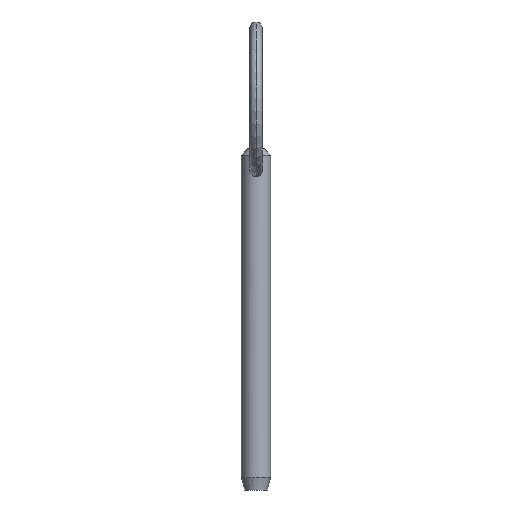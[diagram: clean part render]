
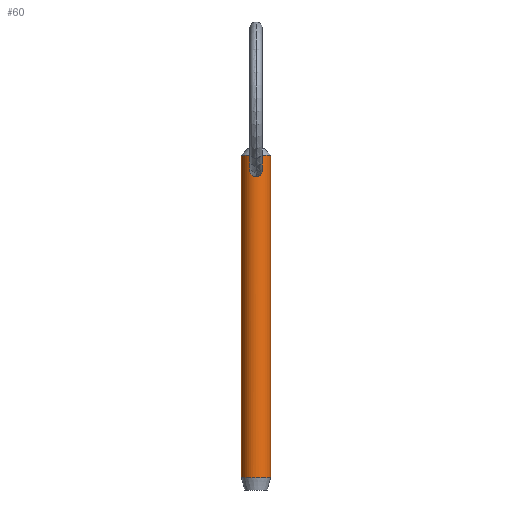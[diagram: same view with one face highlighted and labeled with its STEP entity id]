
A CAD part, front view. The second image highlights one B-rep face of the part: STEP entity #60.
In plain terms, the highlighted cylindrical face has radius 2.38 mm (diameter 4.76 mm), a partial arc.
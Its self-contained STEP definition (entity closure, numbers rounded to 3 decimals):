
#5 = CARTESIAN_POINT ( 'NONE',  ( 0.996, -2.162, 47.064 ) ) ;
#10 = CARTESIAN_POINT ( 'NONE',  ( 0.981, -2.169, 46.664 ) ) ;
#19 = CARTESIAN_POINT ( 'NONE',  ( 0., -2.38, 47.968 ) ) ;
#26 = CARTESIAN_POINT ( 'NONE',  ( -0.885, -2.21, 46.417 ) ) ;
#30 = VERTEX_POINT ( 'NONE', #145 ) ;
#33 = CIRCLE ( 'NONE', #427, 2.38 ) ;
#35 = EDGE_CURVE ( 'NONE', #148, #127, #139, .T. ) ;
#43 = VERTEX_POINT ( 'NONE', #391 ) ;
#50 = CARTESIAN_POINT ( 'NONE',  ( 2.38, 0., -3.08 ) ) ;
#56 = CARTESIAN_POINT ( 'NONE',  ( 0.615, -2.301, 47.744 ) ) ;
#57 = B_SPLINE_CURVE_WITH_KNOTS ( 'NONE', 3,
 ( #367, #443, #448, #307, #56, #87, #193, #450, #5, #86, #10, #405, #306, #123, #339, #372, #447, #270 ),
 .UNSPECIFIED., .F., .F.,
 ( 4, 2, 2, 2, 2, 2, 2, 2, 4 ),
 ( 0.003, 0.003, 0.003, 0.004, 0.004, 0.005, 0.005, 0.005, 0.006 ),
 .UNSPECIFIED. ) ;
#60 = ADVANCED_FACE ( 'NONE', ( #266, #438 ), #385, .T. ) ;
#65 = VERTEX_POINT ( 'NONE', #182 ) ;
#74 = DIRECTION ( 'NONE',  ( -1., 0., 0. ) ) ;
#86 = CARTESIAN_POINT ( 'NONE',  ( 1.003, -2.158, 46.799 ) ) ;
#87 = CARTESIAN_POINT ( 'NONE',  ( 0.793, -2.246, 47.552 ) ) ;
#99 = VECTOR ( 'NONE', #128, 1000. ) ;
#105 = EDGE_CURVE ( 'NONE', #43, #127, #33, .T. ) ;
#110 = ORIENTED_EDGE ( 'NONE', *, *, #35, .F. ) ;
#114 = CARTESIAN_POINT ( 'NONE',  ( 2.38, 0., 49.44 ) ) ;
#123 = CARTESIAN_POINT ( 'NONE',  ( 0.625, -2.299, 46.121 ) ) ;
#126 = CARTESIAN_POINT ( 'NONE',  ( -1.004, -2.158, 46.799 ) ) ;
#127 = VERTEX_POINT ( 'NONE', #50 ) ;
#128 = DIRECTION ( 'NONE',  ( 0., 0., -1. ) ) ;
#129 = EDGE_CURVE ( 'NONE', #148, #30, #201, .T. ) ;
#131 = CARTESIAN_POINT ( 'NONE',  ( 0., -2.38, 47.968 ) ) ;
#139 = LINE ( 'NONE', #212, #164 ) ;
#140 = ORIENTED_EDGE ( 'NONE', *, *, #325, .T. ) ;
#145 = CARTESIAN_POINT ( 'NONE',  ( -2.38, 0., 49.44 ) ) ;
#148 = VERTEX_POINT ( 'NONE', #114 ) ;
#151 = CARTESIAN_POINT ( 'NONE',  ( 0., 0., 45.7 ) ) ;
#152 = B_SPLINE_CURVE_WITH_KNOTS ( 'NONE', 3,
 ( #348, #312, #247, #281, #168, #284, #26, #170, #126, #417, #421, #209, #203, #378, #418, #19 ),
 .UNSPECIFIED., .F., .F.,
 ( 4, 2, 2, 2, 2, 2, 2, 4 ),
 ( 0.006, 0.006, 0.007, 0.007, 0.007, 0.008, 0.009, 0.009 ),
 .UNSPECIFIED. ) ;
#154 = DIRECTION ( 'NONE',  ( 0., 0., -1. ) ) ;
#164 = VECTOR ( 'NONE', #388, 1000. ) ;
#168 = CARTESIAN_POINT ( 'NONE',  ( -0.626, -2.298, 46.122 ) ) ;
#170 = CARTESIAN_POINT ( 'NONE',  ( -0.982, -2.169, 46.665 ) ) ;
#182 = CARTESIAN_POINT ( 'NONE',  ( 0., -2.38, 45.925 ) ) ;
#186 = CARTESIAN_POINT ( 'NONE',  ( 0., 0., 49.44 ) ) ;
#188 = DIRECTION ( 'NONE',  ( -1., 0., 0. ) ) ;
#193 = CARTESIAN_POINT ( 'NONE',  ( 0.865, -2.218, 47.44 ) ) ;
#201 = CIRCLE ( 'NONE', #404, 2.38 ) ;
#203 = CARTESIAN_POINT ( 'NONE',  ( -0.505, -2.329, 47.826 ) ) ;
#209 = CARTESIAN_POINT ( 'NONE',  ( -0.613, -2.302, 47.746 ) ) ;
#212 = CARTESIAN_POINT ( 'NONE',  ( 2.38, 0., 45.7 ) ) ;
#216 = AXIS2_PLACEMENT_3D ( 'NONE', #151, #397, #188 ) ;
#228 = EDGE_LOOP ( 'NONE', ( #110, #248, #380, #347 ) ) ;
#231 = EDGE_CURVE ( 'NONE', #303, #65, #57, .T. ) ;
#247 = CARTESIAN_POINT ( 'NONE',  ( -0.268, -2.368, 45.951 ) ) ;
#248 = ORIENTED_EDGE ( 'NONE', *, *, #129, .T. ) ;
#266 = FACE_OUTER_BOUND ( 'NONE', #228, .T. ) ;
#270 = CARTESIAN_POINT ( 'NONE',  ( 0., -2.38, 45.925 ) ) ;
#281 = CARTESIAN_POINT ( 'NONE',  ( -0.514, -2.327, 46.049 ) ) ;
#284 = CARTESIAN_POINT ( 'NONE',  ( -0.811, -2.24, 46.306 ) ) ;
#297 = EDGE_LOOP ( 'NONE', ( #334, #140 ) ) ;
#301 = CARTESIAN_POINT ( 'NONE',  ( 0., 0., -3.08 ) ) ;
#302 = LINE ( 'NONE', #375, #99 ) ;
#303 = VERTEX_POINT ( 'NONE', #131 ) ;
#304 = EDGE_CURVE ( 'NONE', #30, #43, #302, .T. ) ;
#306 = CARTESIAN_POINT ( 'NONE',  ( 0.811, -2.24, 46.306 ) ) ;
#307 = CARTESIAN_POINT ( 'NONE',  ( 0.508, -2.328, 47.824 ) ) ;
#312 = CARTESIAN_POINT ( 'NONE',  ( -0.133, -2.38, 45.925 ) ) ;
#325 = EDGE_CURVE ( 'NONE', #65, #303, #152, .T. ) ;
#334 = ORIENTED_EDGE ( 'NONE', *, *, #231, .T. ) ;
#339 = CARTESIAN_POINT ( 'NONE',  ( 0.513, -2.327, 46.048 ) ) ;
#347 = ORIENTED_EDGE ( 'NONE', *, *, #105, .T. ) ;
#348 = CARTESIAN_POINT ( 'NONE',  ( 0., -2.38, 45.925 ) ) ;
#367 = CARTESIAN_POINT ( 'NONE',  ( 0., -2.38, 47.968 ) ) ;
#372 = CARTESIAN_POINT ( 'NONE',  ( 0.268, -2.368, 45.951 ) ) ;
#375 = CARTESIAN_POINT ( 'NONE',  ( -2.38, 0., 45.7 ) ) ;
#378 = CARTESIAN_POINT ( 'NONE',  ( -0.267, -2.368, 47.937 ) ) ;
#380 = ORIENTED_EDGE ( 'NONE', *, *, #304, .T. ) ;
#385 = CYLINDRICAL_SURFACE ( 'NONE', #216, 2.38 ) ;
#388 = DIRECTION ( 'NONE',  ( 0., 0., -1. ) ) ;
#391 = CARTESIAN_POINT ( 'NONE',  ( -2.38, 0., -3.08 ) ) ;
#397 = DIRECTION ( 'NONE',  ( 0., 0., -1. ) ) ;
#404 = AXIS2_PLACEMENT_3D ( 'NONE', #186, #154, #475 ) ;
#405 = CARTESIAN_POINT ( 'NONE',  ( 0.885, -2.21, 46.417 ) ) ;
#417 = CARTESIAN_POINT ( 'NONE',  ( -0.991, -2.164, 47.201 ) ) ;
#418 = CARTESIAN_POINT ( 'NONE',  ( -0.134, -2.38, 47.968 ) ) ;
#421 = CARTESIAN_POINT ( 'NONE',  ( -0.88, -2.219, 47.46 ) ) ;
#427 = AXIS2_PLACEMENT_3D ( 'NONE', #301, #441, #74 ) ;
#438 = FACE_BOUND ( 'NONE', #297, .T. ) ;
#441 = DIRECTION ( 'NONE',  ( 0., 0., 1. ) ) ;
#443 = CARTESIAN_POINT ( 'NONE',  ( 0.134, -2.38, 47.968 ) ) ;
#447 = CARTESIAN_POINT ( 'NONE',  ( 0.133, -2.38, 45.925 ) ) ;
#448 = CARTESIAN_POINT ( 'NONE',  ( 0.268, -2.368, 47.937 ) ) ;
#450 = CARTESIAN_POINT ( 'NONE',  ( 0.966, -2.176, 47.197 ) ) ;
#475 = DIRECTION ( 'NONE',  ( 1., 0., 0. ) ) ;
